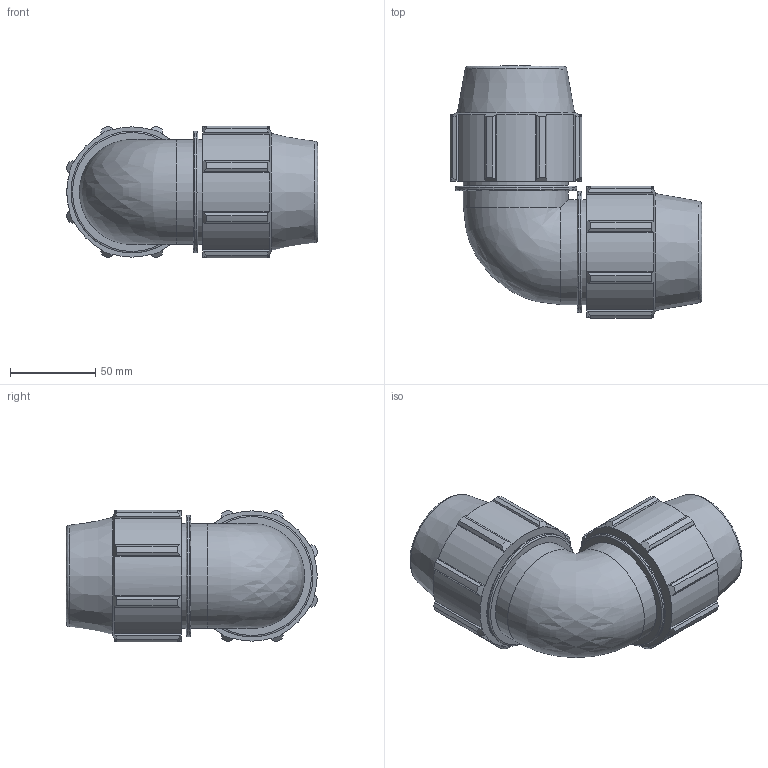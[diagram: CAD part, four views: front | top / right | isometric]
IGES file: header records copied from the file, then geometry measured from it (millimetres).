
Global section: file name: 0705M0013.ipt; native system: Autodesk Inventor 2019; preprocessor: unknown; author: KIM; date: 20210826.124610; units: inch
Bounding box: 147.56 x 147.56 x 77.2 mm (x, y, z)
Volume: 492461.2 mm3; surface area: 85665 mm2
Topology: 1 solids, 1 shells, 148 faces, 422 edges, 284 vertices
Faces by surface type: plane 76, cylinder 38, cone 20, revolution 13, bspline 1
Full cylindrical faces by diameter (mm): 61.531 x4, 71.377 x2
